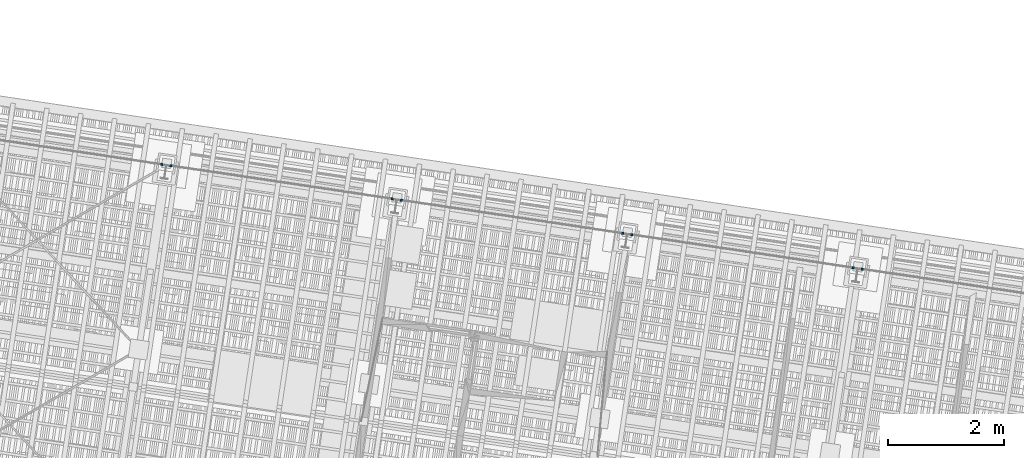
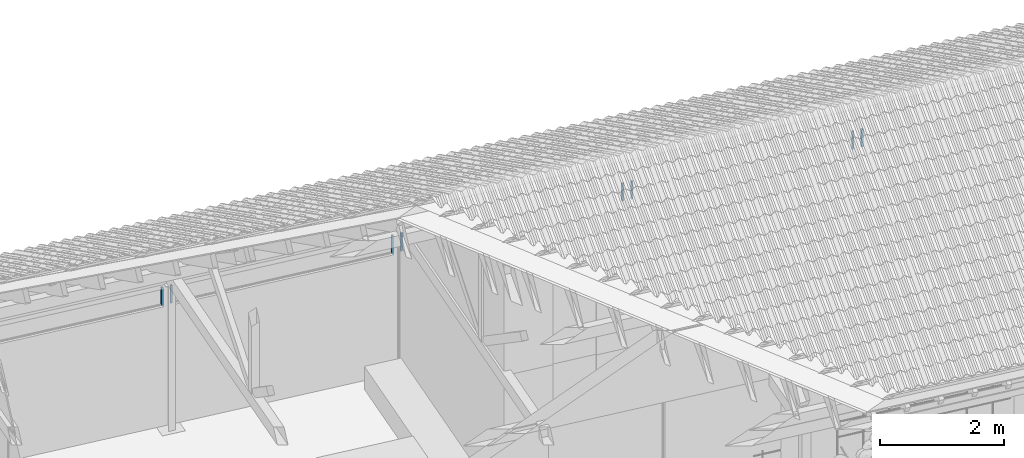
# One storey, part 115 of 131: 8 members.
"""IFC4 building model written with IfcOpenShell, lengths in metres."""

from ifc_helpers import new_model, si_unit, direction, frame, origin_with_axes, place, context, subcontext, project, spatial, rectangle, extrude, material, material_profile, profile_set, profile_usage, type_object, element, save


model = new_model("IFC4")

# Units and contexts
model_context = context("Model", 3, precision=1e-05, world=origin_with_axes(), true_north=direction((0.0, 1.0)))
body_context = subcontext(model_context, "Body", "Model", "MODEL_VIEW")
ifc_project = project(units=[si_unit("AREAUNIT", "SQUARE_METRE"), si_unit("VOLUMEUNIT", "CUBIC_METRE"), si_unit("LENGTHUNIT", "METRE")], contexts=[model_context])

# Site, building, storey
site_placement = place(None, origin_with_axes())
site = spatial("IfcSite", under=ifc_project, at=site_placement, Name="Lares · Rua das Mercês · artigo 4771")
building_placement = place(site_placement, frame((15.0, 9.7, 14.65), z_axis=(0.0, 0.0, 1.0), x_axis=(0.989015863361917, -0.147809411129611, 0.0)))
building = spatial("IfcBuilding", under=site, at=building_placement, Name="Casa Sobreposta")
storey_placement = place(building_placement, origin_with_axes())
storey = spatial("IfcBuildingStorey", under=building, at=storey_placement, Name="00 · Habitação e estacionamento", Elevation=14.65)

# Members
ifc_material = material(Name="Aço pintado / Stahl lackiert", Category="steel")
ifc_material_profile = material_profile(ifc_material, rectangle(XDim=0.035, YDim=0.035))
ifc_profile_set = profile_set([ifc_material_profile], Name="R0.035")
ifc_profile_usage_1 = profile_usage(ifc_profile_set)
member_type = type_object("IfcMemberType", Name="R0.035 / steel", PredefinedType="NOTDEFINED", material=ifc_profile_set)
member_1_placement = place(storey_placement, frame((3.92, 6.4, 2.35), z_axis=(0.0, 0.0, 1.0), x_axis=(1.0, 0.0, 0.0)))
element("IfcMember", 1, at=member_1_placement, inside=storey, type_object=member_type, material=ifc_profile_usage_1, Name="Rasgo norte 1 · montante", context=body_context, shape_type="SweptSolid", body=[
    extrude(rectangle(XDim=0.035, YDim=0.035), origin_with_axes(), (0.0, 0.0, 1.0), 0.35),
])
ifc_profile_usage_2 = profile_usage(ifc_profile_set)
member_2_placement = place(storey_placement, frame((4.08, 6.4, 2.35), z_axis=(0.0, 0.0, 1.0), x_axis=(1.0, 0.0, 0.0)))
element("IfcMember", 2, at=member_2_placement, inside=storey, type_object=member_type, material=ifc_profile_usage_2, Name="Rasgo norte 2 · montante", context=body_context, shape_type="SweptSolid", body=[
    extrude(rectangle(XDim=0.035, YDim=0.035), origin_with_axes(), (0.0, 0.0, 1.0), 0.35),
])
ifc_profile_usage_3 = profile_usage(ifc_profile_set)
member_3_placement = place(storey_placement, frame((7.92, 6.4, 2.35), z_axis=(0.0, 0.0, 1.0), x_axis=(1.0, 0.0, 0.0)))
element("IfcMember", 3, at=member_3_placement, inside=storey, type_object=member_type, material=ifc_profile_usage_3, Name="Rasgo norte 2 · montante", context=body_context, shape_type="SweptSolid", body=[
    extrude(rectangle(XDim=0.035, YDim=0.035), origin_with_axes(), (0.0, 0.0, 1.0), 0.35),
])
ifc_profile_usage_4 = profile_usage(ifc_profile_set)
member_4_placement = place(storey_placement, frame((8.08, 6.4, 2.35), z_axis=(0.0, 0.0, 1.0), x_axis=(1.0, 0.0, 0.0)))
element("IfcMember", 4, at=member_4_placement, inside=storey, type_object=member_type, material=ifc_profile_usage_4, Name="Rasgo norte 3 · montante", context=body_context, shape_type="SweptSolid", body=[
    extrude(rectangle(XDim=0.035, YDim=0.035), origin_with_axes(), (0.0, 0.0, 1.0), 0.35),
])
ifc_profile_usage_5 = profile_usage(ifc_profile_set)
member_5_placement = place(storey_placement, frame((11.92, 6.4, 2.35), z_axis=(0.0, 0.0, 1.0), x_axis=(1.0, 0.0, 0.0)))
element("IfcMember", 5, at=member_5_placement, inside=storey, type_object=member_type, material=ifc_profile_usage_5, Name="Rasgo norte 3 · montante", context=body_context, shape_type="SweptSolid", body=[
    extrude(rectangle(XDim=0.035, YDim=0.035), origin_with_axes(), (0.0, 0.0, 1.0), 0.35),
])
ifc_profile_usage_6 = profile_usage(ifc_profile_set)
member_6_placement = place(storey_placement, frame((12.08, 6.4, 2.35), z_axis=(0.0, 0.0, 1.0), x_axis=(1.0, 0.0, 0.0)))
element("IfcMember", 6, at=member_6_placement, inside=storey, type_object=member_type, material=ifc_profile_usage_6, Name="Rasgo norte 4 · montante", context=body_context, shape_type="SweptSolid", body=[
    extrude(rectangle(XDim=0.035, YDim=0.035), origin_with_axes(), (0.0, 0.0, 1.0), 0.35),
])
ifc_profile_usage_7 = profile_usage(ifc_profile_set)
member_7_placement = place(storey_placement, frame((15.92, 6.4, 2.35), z_axis=(0.0, 0.0, 1.0), x_axis=(1.0, 0.0, 0.0)))
element("IfcMember", 7, at=member_7_placement, inside=storey, type_object=member_type, material=ifc_profile_usage_7, Name="Rasgo norte 4 · montante", context=body_context, shape_type="SweptSolid", body=[
    extrude(rectangle(XDim=0.035, YDim=0.035), origin_with_axes(), (0.0, 0.0, 1.0), 0.35),
])
ifc_profile_usage_8 = profile_usage(ifc_profile_set)
member_8_placement = place(storey_placement, frame((16.08, 6.4, 2.35), z_axis=(0.0, 0.0, 1.0), x_axis=(1.0, 0.0, 0.0)))
element("IfcMember", 8, at=member_8_placement, inside=storey, type_object=member_type, material=ifc_profile_usage_8, Name="Rasgo norte 5 · montante", context=body_context, shape_type="SweptSolid", body=[
    extrude(rectangle(XDim=0.035, YDim=0.035), origin_with_axes(), (0.0, 0.0, 1.0), 0.35),
])

save(model, "model.ifc")
